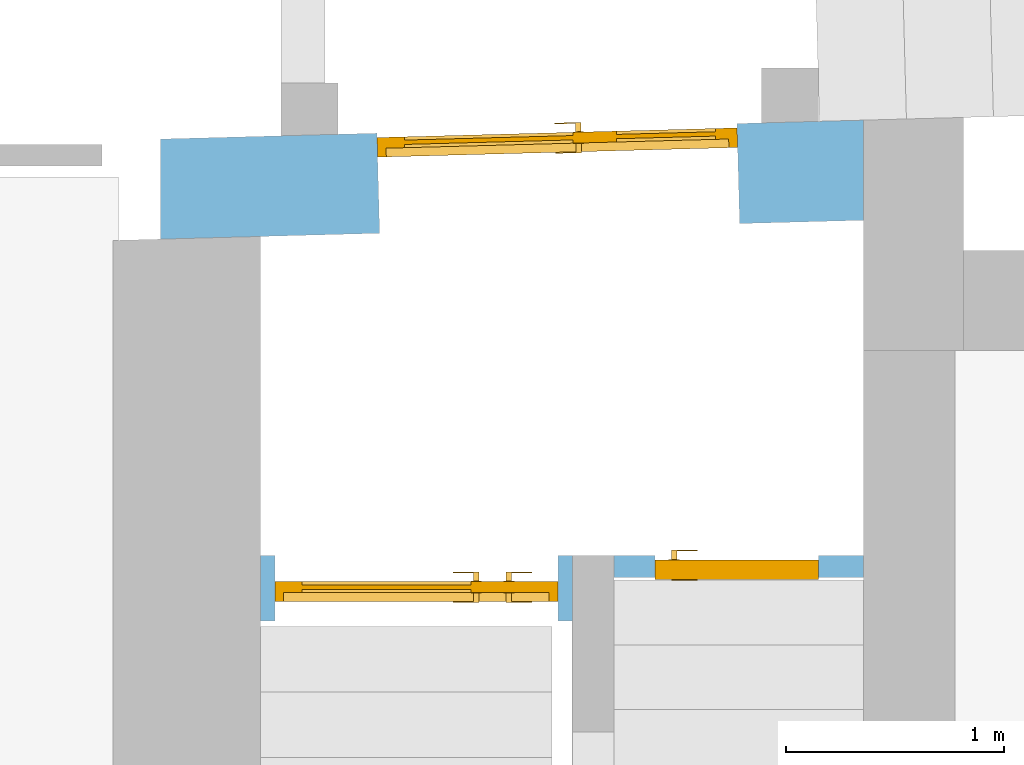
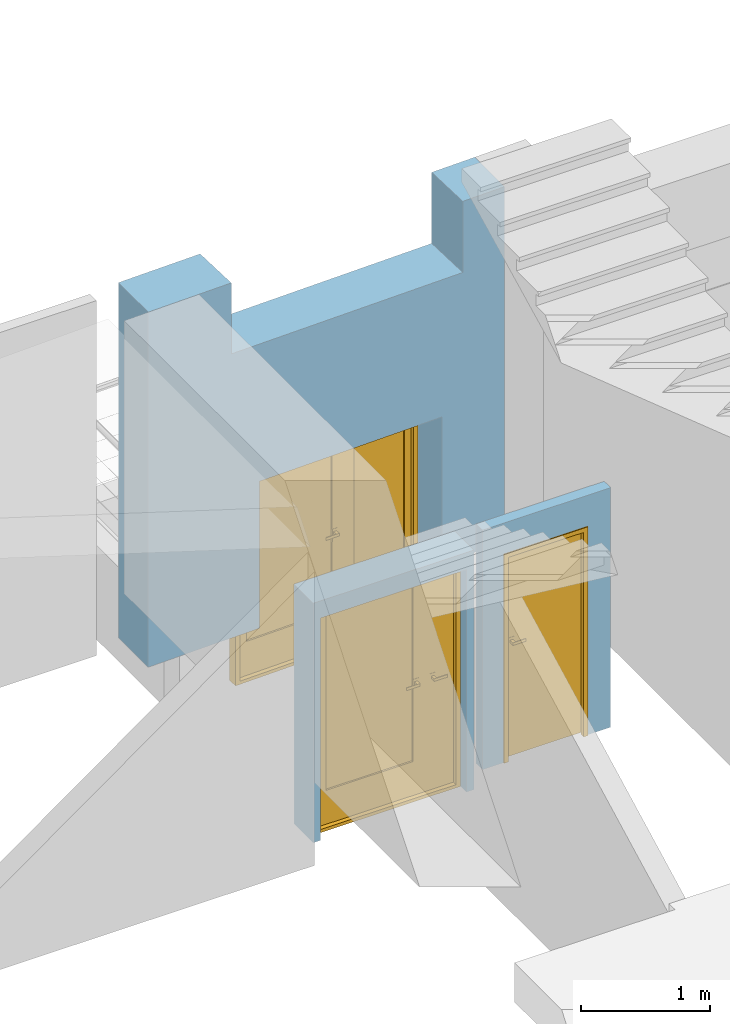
# One storey, part 34 of 49: 3 doors, 5 openings, plus 3 elements that do not belong to this part.
"""IFC2X3 building model written with IfcOpenShell, lengths in millimetres."""

from ifc_helpers import new_model, entity, si_unit, converted_unit, derived_unit, direction, frame, frame_2d, origin, place, context, subcontext, project, spatial, polyline, rectangle, outline, extrude, faceted_brep, source, transform, mapped, material, material_list, layer, layer_set, layer_usage, type_object, type_shapes, element, fill, save


model = new_model("IFC2X3")

# Units and contexts
model_context = context("Model", 3, precision=0.01, world=origin(), true_north=direction((6.12303176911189e-17, 1.0)))
body_context = subcontext(model_context, "Body", "Model", "MODEL_VIEW")
ifc_project = project(units=[si_unit("LENGTHUNIT", "METRE", prefix="MILLI"), si_unit("AREAUNIT", "SQUARE_METRE"), si_unit("VOLUMEUNIT", "CUBIC_METRE"), converted_unit("PLANEANGLEUNIT", "DEGREE", entity("IfcRatioMeasure", 0.0174532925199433), si_unit("PLANEANGLEUNIT", "RADIAN"), dimensions=[0, 0, 0, 0, 0, 0, 0]), si_unit("MASSUNIT", "GRAM", prefix="KILO"), derived_unit("MASSDENSITYUNIT", [(si_unit("MASSUNIT", "GRAM", prefix="KILO"), 1), (si_unit("LENGTHUNIT", "METRE"), -3)]), si_unit("TIMEUNIT", "SECOND"), si_unit("FREQUENCYUNIT", "HERTZ"), si_unit("THERMODYNAMICTEMPERATUREUNIT", "DEGREE_CELSIUS"), derived_unit("THERMALTRANSMITTANCEUNIT", [(si_unit("MASSUNIT", "GRAM", prefix="KILO"), 1), (si_unit("THERMODYNAMICTEMPERATUREUNIT", "KELVIN"), -1), (si_unit("TIMEUNIT", "SECOND"), -3)]), derived_unit("VOLUMETRICFLOWRATEUNIT", [(si_unit("LENGTHUNIT", "METRE"), 3), (si_unit("TIMEUNIT", "SECOND"), -1)]), si_unit("ELECTRICCURRENTUNIT", "AMPERE"), si_unit("ELECTRICVOLTAGEUNIT", "VOLT"), si_unit("POWERUNIT", "WATT"), si_unit("FORCEUNIT", "NEWTON", prefix="KILO"), si_unit("ILLUMINANCEUNIT", "LUX"), si_unit("LUMINOUSFLUXUNIT", "LUMEN"), si_unit("LUMINOUSINTENSITYUNIT", "CANDELA"), derived_unit("USERDEFINED", [(si_unit("MASSUNIT", "GRAM", prefix="KILO"), -1), (si_unit("LENGTHUNIT", "METRE"), -2), (si_unit("TIMEUNIT", "SECOND"), 3), (si_unit("LUMINOUSFLUXUNIT", "LUMEN"), 1)]), derived_unit("LINEARVELOCITYUNIT", [(si_unit("LENGTHUNIT", "METRE"), 1), (si_unit("TIMEUNIT", "SECOND"), -1)]), si_unit("PRESSUREUNIT", "PASCAL"), derived_unit("USERDEFINED", [(si_unit("LENGTHUNIT", "METRE"), -2), (si_unit("MASSUNIT", "GRAM", prefix="KILO"), 1), (si_unit("TIMEUNIT", "SECOND"), -2)])], contexts=[model_context])

# Site, building, storey
site_placement = place(None, frame((-151.875543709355, 2715.0, 0.0)))
site = spatial("IfcSite", under=ifc_project, at=site_placement, Name="Surface", CompositionType="ELEMENT")
building_placement = place(site_placement, origin())
building = spatial("IfcBuilding", under=site, at=building_placement, CompositionType="ELEMENT")
storey_placement = place(building_placement, origin())
storey = spatial("IfcBuildingStorey", under=building, at=storey_placement, Name="1 korrus", CompositionType="ELEMENT", Elevation=3.0969999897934e-10)

# Wall, opening, door
ifc_material_1 = material(Name="Tellis")
ifc_layer_1 = layer(ifc_material_1, 90.0)
ifc_material_2 = material(Name="__Hall krohv")
ifc_layer_2 = layer(ifc_material_2, 10.0)
ifc_layer_set_1 = layer_set([ifc_layer_1, ifc_layer_2], Name="Basic Wall:SS-01_ol.olev tellissein100")
ifc_layer_usage_1 = layer_usage(ifc_layer_set_1, "AXIS2", "NEGATIVE", 50.0)
wall_type_1 = type_object("IfcWallType", Name="Basic Wall:SS-01_ol.olev tellissein100", PredefinedType="STANDARD", material=ifc_layer_set_1)
wall_1_placement = place(storey_placement, frame((3393.79644394, 11158.382795, -754.164218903)))
wall_1 = element("IfcWallStandardCase", 1, at=wall_1_placement, inside=storey, type_object=wall_type_1, material=ifc_layer_usage_1, Name="SEIN - 003", ObjectType="Basic Wall:SS-01_ol.olev tellissein100", context=body_context, shape_type="SweptSolid", body=[
    extrude(rectangle(XDim=1146.27795490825, YDim=100.000000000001, at=frame_2d((573.138977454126, -1.08357767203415e-12), x_axis=(1.0, 0.0))), origin(), (0.0, 0.0, 1.0), 2259.58929114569),
])
opening_1_placement = place(wall_1_placement, frame((188.657590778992, -50.0, 0.0)))
opening_1 = element("IfcOpeningElement", 2, at=opening_1_placement, cuts=wall_1, Name="Ühepoolsed:SU-15:1", ObjectType="Opening", context=body_context, shape_type="SweptSolid", body=[
    extrude(rectangle(XDim=1969.99999999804, YDim=750.0, at=frame_2d((984.999999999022, 375.0), x_axis=(1.0, 0.0))), frame((0.0, 0.0, 0.0), z_axis=(0.0, 1.0, 0.0), x_axis=(0.0, 0.0, 1.0)), (0.0, 0.0, 1.0), 100.0),
])
ifc_material_3 = material(Name="_Alumiiniumprofiil - must")
ifc_material_4 = material(Name="Steel/Aluminium")
ifc_material_list_1 = material_list([ifc_material_3, ifc_material_4])
ifc_material_list_2 = material_list([ifc_material_3, ifc_material_4])
door_style_1 = type_object("IfcDoorStyle", Name="SU-15", ConstructionType="NOTDEFINED", OperationType="FOLDING_TO_LEFT", ParameterTakesPrecedence=False, Sizeable=False, material=ifc_material_list_2)
shared_shape_1 = source(origin(), body_context, "Body", "Brep", [
    faceted_brep([(100.0, -10.0, 1112.5), (100.0, 28.0, 1112.5), (75.0, 28.0, 1112.5), (75.0, -15.0, 1112.5), (195.0, -15.0, 1112.5), (195.0, -10.0, 1112.5), (100.0, -10.0, 1087.5), (195.0, -10.0, 1087.5), (195.0, -15.0, 1087.5), (75.0, -15.0, 1087.5), (75.0, 28.0, 1087.5), (100.0, 28.0, 1087.5)], [[[0, 1, 2, 3, 4, 5]], [[6, 7, 8, 9, 10, 11]], [[1, 0, 6, 11]], [[2, 1, 11, 10]], [[3, 2, 10, 9]], [[4, 3, 9, 8]], [[5, 4, 8, 7]], [[0, 5, 7, 6]]]),
    faceted_brep([(112.5, 28.0, 1137.5), (112.5, 30.0, 1137.5), (62.5, 30.0, 1137.5), (62.5, 28.0, 1137.5), (112.5, 28.0, 1017.5), (62.5, 28.0, 1017.5), (62.5, 30.0, 1017.5), (112.5, 30.0, 1017.5)], [[[0, 1, 2, 3]], [[4, 5, 6, 7]], [[1, 0, 4, 7]], [[2, 1, 7, 6]], [[3, 2, 6, 5]], [[0, 3, 5, 4]]]),
    faceted_brep([(100.0, 120.0, 1112.5), (195.0, 120.0, 1112.5), (195.0, 125.0, 1112.5), (75.0, 125.0, 1112.5), (75.0, 82.0, 1112.5), (100.0, 82.0, 1112.5), (100.0, 120.0, 1087.5), (100.0, 82.0, 1087.5), (75.0, 82.0, 1087.5), (75.0, 125.0, 1087.5), (195.0, 125.0, 1087.5), (195.0, 120.0, 1087.5)], [[[0, 1, 2, 3, 4, 5]], [[6, 7, 8, 9, 10, 11]], [[5, 7, 6, 0]], [[4, 8, 7, 5]], [[3, 9, 8, 4]], [[2, 10, 9, 3]], [[1, 11, 10, 2]], [[0, 6, 11, 1]]]),
    faceted_brep([(112.5, 82.0, 1137.5), (62.5, 82.0, 1137.5), (62.5, 80.0, 1137.5), (112.5, 80.0, 1137.5), (112.5, 82.0, 1017.5), (112.5, 80.0, 1017.5), (62.5, 80.0, 1017.5), (62.5, 82.0, 1017.5)], [[[0, 1, 2, 3]], [[4, 5, 6, 7]], [[3, 5, 4, 0]], [[2, 6, 5, 3]], [[1, 7, 6, 2]], [[0, 4, 7, 1]]]),
    faceted_brep([(750.0, -10.0, 0.0), (710.0, -10.0, 0.0), (710.0, 30.0, 0.0), (725.0, 30.0, 0.0), (725.0, 80.0, 0.0), (750.0, 80.0, 0.0), (750.0, -10.0, 1970.0), (0.0, -10.0, 1970.0), (0.0, -10.0, 0.0), (40.0, -10.0, 0.0), (40.0, -10.0, 1930.0), (710.0, -10.0, 1930.0), (710.0, 30.0, 1930.0), (40.0, 30.0, 1930.0), (40.0, 30.0, 0.0), (25.0, 30.0, 0.0), (25.0, 30.0, 1945.0), (725.0, 30.0, 1945.0), (725.0, 80.0, 1945.0), (25.0, 80.0, 1945.0), (25.0, 80.0, 0.0), (0.0, 80.0, 0.0), (0.0, 80.0, 1970.0), (750.0, 80.0, 1970.0)], [[[0, 1, 2, 3, 4, 5]], [[1, 0, 6, 7, 8, 9, 10, 11]], [[2, 1, 11, 12]], [[3, 2, 12, 13, 14, 15, 16, 17]], [[4, 3, 17, 18]], [[5, 4, 18, 19, 20, 21, 22, 23]], [[0, 5, 23, 6]], [[8, 7, 22, 21]], [[9, 8, 21, 20, 15, 14]], [[10, 9, 14, 13]], [[16, 15, 20, 19]], [[11, 10, 13, 12]], [[17, 16, 19, 18]], [[7, 6, 23, 22]]]),
    faceted_brep([(25.0, 30.0, 1945.0), (25.0, 30.0, 20.0), (725.0, 30.0, 20.0), (725.0, 30.0, 1945.0), (25.0, 80.0, 1945.0), (725.0, 80.0, 1945.0), (725.0, 80.0, 20.0), (25.0, 80.0, 20.0)], [[[0, 1, 2, 3]], [[4, 5, 6, 7]], [[1, 0, 4, 7]], [[2, 1, 7, 6]], [[3, 2, 6, 5]], [[0, 3, 5, 4]]]),
])
type_shapes(door_style_1, [shared_shape_1])
door_1_placement = place(opening_1_placement, origin())
door_1 = element("IfcDoor", 3, at=door_1_placement, inside=storey, type_object=door_style_1, material=ifc_material_list_1, Name="Ühepoolsed:SU-15", ObjectType="SU-15", OverallHeight=1969.99999999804, OverallWidth=750.0, context=body_context, shape_type="MappedRepresentation", body=[
    mapped(shared_shape_1, transform((0.0, 0.0, 0.0), scale=1.0)),
])
fill(opening_1, door_1)

# Wall, openings, door
ifc_material_5 = material(Name="Brick, Common")
ifc_layer_3 = layer(ifc_material_5, 440.0)
ifc_material_6 = material(Name="__Kips GN13_tava")
ifc_layer_4 = layer(ifc_material_6, 20.0)
ifc_layer_set_2 = layer_set([ifc_layer_3, ifc_layer_4], Name="Basic Wall:VS-1")
ifc_layer_usage_2 = layer_usage(ifc_layer_set_2, "AXIS2", "NEGATIVE", 230.0)
wall_type_2 = type_object("IfcWallType", Name="Basic Wall:VS-1", PredefinedType="STANDARD", material=ifc_layer_set_2)
wall_2_placement = place(storey_placement, frame((1084.82025900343, 12886.4674488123, 0.0), z_axis=(0.0, 0.0, 1.0), x_axis=(0.999638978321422, 0.0268684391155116, 0.0)))
wall_2 = element("IfcWallStandardCase", 4, at=wall_2_placement, inside=storey, type_object=wall_type_2, material=ifc_layer_usage_2, Name="SEIN - 004", ObjectType="Basic Wall:VS-1", context=body_context, shape_type="SweptSolid", body=[
    extrude(outline(polyline([(219.079092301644, -230.0), (3450.32003918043, -230.0), (3462.68398482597, 230.0), (231.44303794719, 230.0), (219.079092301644, -230.0)])), origin(), (0.0, 0.0, 1.0), 3350.0),
])
opening_2_placement = place(wall_2_placement, origin())
element("IfcOpeningElement", 5, at=opening_2_placement, cuts=wall_2, Name="SEIN - 004", ObjectType="Opening", context=body_context, shape_type="SweptSolid", body=[
    extrude(rectangle(XDim=1850.0, YDim=2100.0, at=frame_2d((2.27373675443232e-13, 0.0), x_axis=(1.0, 0.0))), frame((2022.05100957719, -490.0, 3604.53481674), z_axis=(0.0, 1.0, 0.0), x_axis=(0.0, 0.0, 1.0)), (0.0, 0.0, 1.0), 1180.0),
])
opening_3_placement = place(wall_2_placement, origin())
element("IfcOpeningElement", 6, at=opening_3_placement, cuts=wall_2, Name="SEIN - 004", ObjectType="Opening", context=body_context, shape_type="SweptSolid", body=[
    extrude(rectangle(XDim=1850.0, YDim=2100.0, at=frame_2d((2.8421709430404e-13, 1.13686837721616e-13), x_axis=(1.0, 0.0))), frame((2022.05100957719, -695.9, 3604.534816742), z_axis=(0.0, 1.0, 0.0), x_axis=(0.0, 0.0, -1.0)), (0.0, 0.0, 1.0), 1393.8),
])
opening_4_placement = place(wall_2_placement, frame((1226.25711883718, -230.0, -754.0)))
opening_4 = element("IfcOpeningElement", 7, at=opening_4_placement, cuts=wall_2, Name="Kahepoolsed:VU-02:1", ObjectType="Opening", context=body_context, shape_type="SweptSolid", body=[
    extrude(rectangle(XDim=2139.99999999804, YDim=1655.0, at=frame_2d((1069.99999999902, 827.5), x_axis=(1.0, 0.0))), frame((0.0, 0.0, 0.0), z_axis=(0.0, 1.0, 0.0), x_axis=(0.0, 0.0, 1.0)), (0.0, 0.0, 1.0), 460.0),
])
ifc_material_7 = material(Name="EP Tavallinen lasi")
ifc_material_list_3 = material_list([ifc_material_3, ifc_material_4, ifc_material_7])
ifc_material_list_4 = material_list([ifc_material_3, ifc_material_4, ifc_material_7])
door_style_2 = type_object("IfcDoorStyle", Name="VU-02", ConstructionType="NOTDEFINED", OperationType="FOLDING_TO_RIGHT", ParameterTakesPrecedence=False, Sizeable=False, material=ifc_material_list_4)
shared_shape_2 = source(origin(), body_context, "Body", "Brep", [
    faceted_brep([(912.499999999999, 350.0, 1100.0), (817.499999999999, 350.0, 1100.0), (817.499999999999, 345.0, 1100.0), (937.499999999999, 345.0, 1100.0), (937.499999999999, 388.0, 1100.0), (912.499999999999, 388.0, 1100.0), (912.499999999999, 350.0, 1075.0), (912.499999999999, 388.0, 1075.0), (937.499999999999, 388.0, 1075.0), (937.499999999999, 345.0, 1075.0), (817.499999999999, 345.0, 1075.0), (817.499999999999, 350.0, 1075.0)], [[[0, 1, 2, 3, 4, 5]], [[6, 7, 8, 9, 10, 11]], [[5, 7, 6, 0]], [[4, 8, 7, 5]], [[3, 9, 8, 4]], [[2, 10, 9, 3]], [[1, 11, 10, 2]], [[0, 6, 11, 1]]]),
    faceted_brep([(900.0, 388.0, 1125.0), (950.0, 388.0, 1125.0), (950.0, 390.0, 1125.0), (900.0, 390.0, 1125.0), (900.0, 388.0, 1005.0), (900.0, 390.0, 1005.0), (950.0, 390.0, 1005.0), (950.0, 388.0, 1005.0)], [[[0, 1, 2, 3]], [[4, 5, 6, 7]], [[3, 5, 4, 0]], [[2, 6, 5, 3]], [[1, 7, 6, 2]], [[0, 4, 7, 1]]]),
    faceted_brep([(912.499999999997, 480.0, 1100.0), (912.499999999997, 442.0, 1100.0), (937.499999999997, 442.0, 1100.0), (937.499999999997, 485.0, 1100.0), (817.499999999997, 485.0, 1100.0), (817.499999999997, 480.0, 1100.0), (912.499999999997, 480.0, 1075.0), (817.499999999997, 480.0, 1075.0), (817.499999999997, 485.0, 1075.0), (937.499999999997, 485.0, 1075.0), (937.499999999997, 442.0, 1075.0), (912.499999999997, 442.0, 1075.0)], [[[0, 1, 2, 3, 4, 5]], [[6, 7, 8, 9, 10, 11]], [[1, 0, 6, 11]], [[2, 1, 11, 10]], [[3, 2, 10, 9]], [[4, 3, 9, 8]], [[5, 4, 8, 7]], [[0, 5, 7, 6]]]),
    faceted_brep([(900.0, 442.0, 1125.0), (900.0, 440.0, 1125.0), (950.0, 440.0, 1125.0), (950.0, 442.0, 1125.0), (900.0, 442.0, 1005.0), (950.0, 442.0, 1005.0), (950.0, 440.0, 1005.0), (900.0, 440.0, 1005.0)], [[[0, 1, 2, 3]], [[4, 5, 6, 7]], [[1, 0, 4, 7]], [[2, 1, 7, 6]], [[3, 2, 6, 5]], [[0, 3, 5, 4]]]),
    faceted_brep([(1615.0, 350.0, 30.0), (1615.0, 350.0, 0.0), (1615.0, 390.0, 0.0), (1615.0, 390.0, 20.0), (1615.0, 390.0, 30.0), (40.0, 350.0, 30.0), (40.0, 390.0, 30.0), (40.0, 390.0, 20.0), (40.0, 390.0, 0.0), (40.0, 350.0, 0.0), (25.0, 390.0, 0.0), (25.0, 440.0, 0.0), (1630.0, 440.0, 0.0), (1630.0, 390.0, 0.0), (1630.0, 440.0, 20.0), (1630.0, 390.0, 20.0), (25.0, 440.0, 20.0), (25.0, 390.0, 20.0)], [[[0, 1, 2, 3, 4]], [[5, 6, 7, 8, 9]], [[1, 0, 5, 9]], [[2, 1, 9, 8, 10, 11, 12, 13]], [[6, 4, 3, 7]], [[0, 4, 6, 5]], [[14, 15, 13, 12]], [[16, 11, 10, 17]], [[15, 14, 16, 17, 7, 3]], [[13, 15, 3, 2]], [[14, 12, 11, 16]], [[17, 10, 8, 7]]]),
    faceted_brep([(1655.0, 350.0, 0.0), (1615.0, 350.0, 0.0), (1615.0, 390.0, 0.0), (1630.0, 390.0, 0.0), (1630.0, 440.0, 0.0), (1655.0, 440.0, 0.0), (1655.0, 350.0, 2140.0), (0.0, 350.0, 2140.0), (0.0, 350.0, 0.0), (40.0, 350.0, 0.0), (40.0, 350.0, 2100.0), (1615.0, 350.0, 2100.0), (1615.0, 390.0, 2100.0), (40.0, 390.0, 2100.0), (40.0, 390.0, 0.0), (25.0, 390.0, 0.0), (25.0, 390.0, 2115.0), (1630.0, 390.0, 2115.0), (1630.0, 440.0, 2115.0), (25.0, 440.0, 2115.0), (25.0, 440.0, 0.0), (0.0, 440.0, 0.0), (0.0, 440.0, 2140.0), (1655.0, 440.0, 2140.0)], [[[0, 1, 2, 3, 4, 5]], [[1, 0, 6, 7, 8, 9, 10, 11]], [[2, 1, 11, 12]], [[3, 2, 12, 13, 14, 15, 16, 17]], [[4, 3, 17, 18]], [[5, 4, 18, 19, 20, 21, 22, 23]], [[0, 5, 23, 6]], [[8, 7, 22, 21]], [[9, 8, 21, 20, 15, 14]], [[10, 9, 14, 13]], [[16, 15, 20, 19]], [[7, 6, 23, 22]], [[11, 10, 13, 12]], [[17, 16, 19, 18]]]),
    faceted_brep([(125.0, 405.0, 350.0), (900.0, 405.0, 350.0), (900.0, 405.0, 2040.0), (125.0, 405.0, 2040.0), (125.0, 425.0, 350.0), (125.0, 425.0, 2040.0), (900.0, 425.0, 2040.0), (900.0, 425.0, 350.0)], [[[0, 1, 2, 3]], [[4, 5, 6, 7]], [[1, 0, 4, 7]], [[2, 1, 7, 6]], [[3, 2, 6, 5]], [[0, 3, 5, 4]]]),
    faceted_brep([(1100.0, 405.0, 350.0), (1555.0, 405.0, 350.0), (1555.0, 405.0, 2040.0), (1100.0, 405.0, 2040.0), (1100.0, 425.0, 350.0), (1100.0, 425.0, 2040.0), (1555.0, 425.0, 2040.0), (1555.0, 425.0, 350.0)], [[[0, 1, 2, 3]], [[4, 5, 6, 7]], [[1, 0, 4, 7]], [[2, 1, 7, 6]], [[3, 2, 6, 5]], [[0, 3, 5, 4]]]),
    faceted_brep([(1000.0, 390.0, 2115.0), (25.0, 390.0, 2115.0), (25.0, 390.0, 20.0), (1000.0, 390.0, 20.0), (125.0, 390.0, 350.0), (125.0, 390.0, 2040.0), (900.0, 390.0, 2040.0), (900.0, 390.0, 350.0), (1000.0, 440.0, 2115.0), (1000.0, 440.0, 20.0), (25.0, 440.0, 20.0), (25.0, 440.0, 2115.0), (125.0, 440.0, 2040.0), (125.0, 440.0, 350.0), (900.0, 440.0, 350.0), (900.0, 440.0, 2040.0)], [[[0, 1, 2, 3], [4, 5, 6, 7]], [[8, 9, 10, 11], [12, 13, 14, 15]], [[1, 0, 8, 11]], [[2, 1, 11, 10]], [[3, 2, 10, 9]], [[0, 3, 9, 8]], [[12, 5, 4, 13]], [[13, 4, 7, 14]], [[14, 7, 6, 15]], [[5, 12, 15, 6]]]),
    faceted_brep([(1000.0, 390.0, 2115.0), (1000.0, 390.0, 20.0), (1630.0, 390.0, 20.0), (1630.0, 390.0, 2115.0), (1100.0, 390.0, 350.0), (1100.0, 390.0, 2040.0), (1555.0, 390.0, 2040.0), (1555.0, 390.0, 350.0), (1000.0, 440.0, 2115.0), (1630.0, 440.0, 2115.0), (1630.0, 440.0, 20.0), (1000.0, 440.0, 20.0), (1100.0, 440.0, 2040.0), (1100.0, 440.0, 350.0), (1555.0, 440.0, 350.0), (1555.0, 440.0, 2040.0)], [[[0, 1, 2, 3], [4, 5, 6, 7]], [[8, 9, 10, 11], [12, 13, 14, 15]], [[1, 0, 8, 11]], [[2, 1, 11, 10]], [[3, 2, 10, 9]], [[0, 3, 9, 8]], [[12, 5, 4, 13]], [[13, 4, 7, 14]], [[14, 7, 6, 15]], [[5, 12, 15, 6]]]),
])
type_shapes(door_style_2, [shared_shape_2])
door_2_placement = place(opening_4_placement, origin())
door_2 = element("IfcDoor", 8, at=door_2_placement, inside=storey, type_object=door_style_2, material=ifc_material_list_3, Name="Kahepoolsed:VU-02", ObjectType="VU-02", OverallHeight=2139.99999999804, OverallWidth=1655.0, context=body_context, shape_type="MappedRepresentation", body=[
    mapped(shared_shape_2, transform((0.0, 0.0, 0.0), scale=1.0)),
])
fill(opening_4, door_2)

# Wall, opening, door
ifc_layer_5 = layer(ifc_material_2, 10.0)
ifc_layer_6 = layer(ifc_material_1, 280.0)
ifc_layer_7 = layer(ifc_material_2, 10.0)
ifc_layer_set_3 = layer_set([ifc_layer_5, ifc_layer_6, ifc_layer_7], Name="Basic Wall:SS-01_ol.olev tellissein300")
ifc_layer_usage_3 = layer_usage(ifc_layer_set_3, "AXIS2", "NEGATIVE", 150.0)
wall_type_3 = type_object("IfcWallType", Name="Basic Wall:SS-01_ol.olev tellissein300", PredefinedType="STANDARD", material=ifc_layer_set_3)
wall_3_placement = place(storey_placement, frame((1770.0, 11058.382795, -754.164218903)))
wall_3 = element("IfcWallStandardCase", 9, at=wall_3_placement, inside=storey, type_object=wall_type_3, material=ifc_layer_usage_3, Name="SEIN - 003", ObjectType="Basic Wall:SS-01_ol.olev tellissein300", context=body_context, shape_type="SweptSolid", body=[
    extrude(rectangle(XDim=1433.79644394, YDim=300.000000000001, at=frame_2d((716.89822197, 0.0), x_axis=(-1.0, 0.0))), origin(), (0.0, 0.0, 1.0), 2259.58929114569),
])
opening_5_placement = place(wall_3_placement, frame((65.597899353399, -150.0, 1.30986315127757e-09)))
opening_5 = element("IfcOpeningElement", 10, at=opening_5_placement, cuts=wall_3, Name="Kahepoolsed:SU-12:1", ObjectType="Opening", context=body_context, shape_type="SweptSolid", body=[
    extrude(rectangle(XDim=2099.99999999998, YDim=1300.0, at=frame_2d((1049.99999999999, 650.0), x_axis=(1.0, 0.0))), frame((0.0, 0.0, 0.0), z_axis=(0.0, 1.0, 0.0), x_axis=(0.0, 0.0, 1.0)), (0.0, 0.0, 1.0), 300.0),
])
ifc_material_8 = material(Name="__Uks_hele tamm")
ifc_material_list_5 = material_list([ifc_material_3, ifc_material_8, ifc_material_7])
ifc_material_list_6 = material_list([ifc_material_3, ifc_material_8, ifc_material_7])
door_style_3 = type_object("IfcDoorStyle", Name="SU-12", ConstructionType="NOTDEFINED", OperationType="FOLDING_TO_RIGHT", ParameterTakesPrecedence=False, Sizeable=False, material=ifc_material_list_6)
shared_shape_3 = source(origin(), body_context, "Body", "Brep", [
    faceted_brep([(912.5, 90.0, 1100.0), (817.5, 90.0, 1100.0), (817.5, 85.0, 1100.0), (937.5, 85.0, 1100.0), (937.5, 128.0, 1100.0), (912.5, 128.0, 1100.0), (912.5, 90.0, 1075.0), (912.5, 128.0, 1075.0), (937.5, 128.0, 1075.0), (937.5, 85.0, 1075.0), (817.5, 85.0, 1075.0), (817.5, 90.0, 1075.0)], [[[0, 1, 2, 3, 4, 5]], [[6, 7, 8, 9, 10, 11]], [[5, 7, 6, 0]], [[4, 8, 7, 5]], [[3, 9, 8, 4]], [[2, 10, 9, 3]], [[1, 11, 10, 2]], [[0, 6, 11, 1]]]),
    faceted_brep([(900.0, 128.0, 1125.0), (950.0, 128.0, 1125.0), (950.0, 130.0, 1125.0), (900.0, 130.0, 1125.0), (900.0, 128.0, 1005.0), (900.0, 130.0, 1005.0), (950.0, 130.0, 1005.0), (950.0, 128.0, 1005.0)], [[[0, 1, 2, 3]], [[4, 5, 6, 7]], [[3, 5, 4, 0]], [[2, 6, 5, 3]], [[1, 7, 6, 2]], [[0, 4, 7, 1]]]),
    faceted_brep([(912.499999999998, 220.0, 1100.0), (912.499999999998, 182.0, 1100.0), (937.499999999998, 182.0, 1100.0), (937.499999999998, 225.0, 1100.0), (817.499999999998, 225.0, 1100.0), (817.499999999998, 220.0, 1100.0), (912.499999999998, 220.0, 1075.0), (817.499999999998, 220.0, 1075.0), (817.499999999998, 225.0, 1075.0), (937.499999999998, 225.0, 1075.0), (937.499999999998, 182.0, 1075.0), (912.499999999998, 182.0, 1075.0)], [[[0, 1, 2, 3, 4, 5]], [[6, 7, 8, 9, 10, 11]], [[1, 0, 6, 11]], [[2, 1, 11, 10]], [[3, 2, 10, 9]], [[4, 3, 9, 8]], [[5, 4, 8, 7]], [[0, 5, 7, 6]]]),
    faceted_brep([(900.0, 182.0, 1125.0), (900.0, 180.0, 1125.0), (950.0, 180.0, 1125.0), (950.0, 182.0, 1125.0), (900.0, 182.0, 1005.0), (950.0, 182.0, 1005.0), (950.0, 180.0, 1005.0), (900.0, 180.0, 1005.0)], [[[0, 1, 2, 3]], [[4, 5, 6, 7]], [[1, 0, 4, 7]], [[2, 1, 7, 6]], [[3, 2, 6, 5]], [[0, 3, 5, 4]]]),
    faceted_brep([(1087.5, 90.0, 1100.0), (1087.5, 128.0, 1100.0), (1062.5, 128.0, 1100.0), (1062.5, 85.0, 1100.0), (1182.5, 85.0, 1100.0), (1182.5, 90.0, 1100.0), (1087.5, 90.0, 1075.0), (1182.5, 90.0, 1075.0), (1182.5, 85.0, 1075.0), (1062.5, 85.0, 1075.0), (1062.5, 128.0, 1075.0), (1087.5, 128.0, 1075.0)], [[[0, 1, 2, 3, 4, 5]], [[6, 7, 8, 9, 10, 11]], [[1, 0, 6, 11]], [[2, 1, 11, 10]], [[3, 2, 10, 9]], [[4, 3, 9, 8]], [[5, 4, 8, 7]], [[0, 5, 7, 6]]]),
    faceted_brep([(1100.0, 128.0, 1125.0), (1100.0, 130.0, 1125.0), (1050.0, 130.0, 1125.0), (1050.0, 128.0, 1125.0), (1100.0, 128.0, 1005.0), (1050.0, 128.0, 1005.0), (1050.0, 130.0, 1005.0), (1100.0, 130.0, 1005.0)], [[[0, 1, 2, 3]], [[4, 5, 6, 7]], [[1, 0, 4, 7]], [[2, 1, 7, 6]], [[3, 2, 6, 5]], [[0, 3, 5, 4]]]),
    faceted_brep([(1087.5, 220.0, 1100.0), (1182.5, 220.0, 1100.0), (1182.5, 225.0, 1100.0), (1062.5, 225.0, 1100.0), (1062.5, 182.0, 1100.0), (1087.5, 182.0, 1100.0), (1087.5, 220.0, 1075.0), (1087.5, 182.0, 1075.0), (1062.5, 182.0, 1075.0), (1062.5, 225.0, 1075.0), (1182.5, 225.0, 1075.0), (1182.5, 220.0, 1075.0)], [[[0, 1, 2, 3, 4, 5]], [[6, 7, 8, 9, 10, 11]], [[5, 7, 6, 0]], [[4, 8, 7, 5]], [[3, 9, 8, 4]], [[2, 10, 9, 3]], [[1, 11, 10, 2]], [[0, 6, 11, 1]]]),
    faceted_brep([(1100.0, 182.0, 1125.0), (1050.0, 182.0, 1125.0), (1050.0, 180.0, 1125.0), (1100.0, 180.0, 1125.0), (1100.0, 182.0, 1005.0), (1100.0, 180.0, 1005.0), (1050.0, 180.0, 1005.0), (1050.0, 182.0, 1005.0)], [[[0, 1, 2, 3]], [[4, 5, 6, 7]], [[3, 5, 4, 0]], [[2, 6, 5, 3]], [[1, 7, 6, 2]], [[0, 4, 7, 1]]]),
    faceted_brep([(1260.0, 90.0, 30.0), (1260.0, 90.0, 0.0), (1260.0, 130.0, 0.0), (1260.0, 130.0, 20.0), (1260.0, 130.0, 30.0), (40.0, 90.0, 30.0), (40.0, 130.0, 30.0), (40.0, 130.0, 20.0), (40.0, 130.0, 0.0), (40.0, 90.0, 0.0), (25.0, 130.0, 0.0), (25.0, 180.0, 0.0), (1275.0, 180.0, 0.0), (1275.0, 130.0, 0.0), (1275.0, 180.0, 20.0), (1275.0, 130.0, 20.0), (25.0, 180.0, 20.0), (25.0, 130.0, 20.0)], [[[0, 1, 2, 3, 4]], [[5, 6, 7, 8, 9]], [[1, 0, 5, 9]], [[2, 1, 9, 8, 10, 11, 12, 13]], [[6, 4, 3, 7]], [[0, 4, 6, 5]], [[14, 15, 13, 12]], [[16, 11, 10, 17]], [[15, 14, 16, 17, 7, 3]], [[13, 15, 3, 2]], [[14, 12, 11, 16]], [[17, 10, 8, 7]]]),
    faceted_brep([(1300.0, 90.0, 0.0), (1260.0, 90.0, 0.0), (1260.0, 130.0, 0.0), (1275.0, 130.0, 0.0), (1275.0, 180.0, 0.0), (1300.0, 180.0, 0.0), (1300.0, 90.0, 2100.0), (0.0, 90.0, 2100.0), (0.0, 90.0, 0.0), (40.0, 90.0, 0.0), (40.0, 90.0, 2060.0), (1260.0, 90.0, 2060.0), (1260.0, 130.0, 2060.0), (40.0, 130.0, 2060.0), (40.0, 130.0, 0.0), (25.0, 130.0, 0.0), (25.0, 130.0, 2075.0), (1275.0, 130.0, 2075.0), (1275.0, 180.0, 2075.0), (25.0, 180.0, 2075.0), (25.0, 180.0, 0.0), (0.0, 180.0, 0.0), (0.0, 180.0, 2100.0), (1300.0, 180.0, 2100.0)], [[[0, 1, 2, 3, 4, 5]], [[1, 0, 6, 7, 8, 9, 10, 11]], [[2, 1, 11, 12]], [[3, 2, 12, 13, 14, 15, 16, 17]], [[4, 3, 17, 18]], [[5, 4, 18, 19, 20, 21, 22, 23]], [[0, 5, 23, 6]], [[8, 7, 22, 21]], [[9, 8, 21, 20, 15, 14]], [[10, 9, 14, 13]], [[16, 15, 20, 19]], [[11, 10, 13, 12]], [[17, 16, 19, 18]], [[7, 6, 23, 22]]]),
    faceted_brep([(1149.0, 180.0, 2000.0), (1149.0, 130.0, 2000.0), (1149.0, 130.0, 1990.0), (1149.0, 180.0, 1990.0), (1150.0, 130.0, 1990.0), (1150.0, 180.0, 1990.0), (1150.0, 130.0, 2000.0), (1150.0, 180.0, 2000.0), (1275.0, 130.0, 2075.0), (1000.0, 130.0, 2075.0), (1000.0, 130.0, 20.0), (1275.0, 130.0, 20.0), (1275.0, 180.0, 2075.0), (1275.0, 180.0, 20.0), (1000.0, 180.0, 20.0), (1000.0, 180.0, 2075.0)], [[[0, 1, 2, 3]], [[3, 2, 4, 5]], [[5, 4, 6, 7]], [[1, 0, 7, 6]], [[2, 1, 6, 4], [8, 9, 10, 11]], [[0, 3, 5, 7], [12, 13, 14, 15]], [[9, 8, 12, 15]], [[10, 9, 15, 14]], [[11, 10, 14, 13]], [[8, 11, 13, 12]]], outer=[[True], [True], [True], [True], [False, True], [False, True], [True], [True], [True], [True]]),
    faceted_brep([(125.0, 145.0, 350.0), (900.0, 145.0, 350.0), (900.0, 145.0, 2000.0), (125.0, 145.0, 2000.0), (125.0, 165.0, 350.0), (125.0, 165.0, 2000.0), (900.0, 165.0, 2000.0), (900.0, 165.0, 350.0)], [[[0, 1, 2, 3]], [[4, 5, 6, 7]], [[1, 0, 4, 7]], [[2, 1, 7, 6]], [[3, 2, 6, 5]], [[0, 3, 5, 4]]]),
    faceted_brep([(1000.0, 130.0, 2075.0), (25.0, 130.0, 2075.0), (25.0, 130.0, 20.0), (1000.0, 130.0, 20.0), (125.0, 130.0, 350.0), (125.0, 130.0, 2000.0), (900.0, 130.0, 2000.0), (900.0, 130.0, 350.0), (1000.0, 180.0, 2075.0), (1000.0, 180.0, 20.0), (25.0, 180.0, 20.0), (25.0, 180.0, 2075.0), (125.0, 180.0, 2000.0), (125.0, 180.0, 350.0), (900.0, 180.0, 350.0), (900.0, 180.0, 2000.0)], [[[0, 1, 2, 3], [4, 5, 6, 7]], [[8, 9, 10, 11], [12, 13, 14, 15]], [[1, 0, 8, 11]], [[2, 1, 11, 10]], [[3, 2, 10, 9]], [[0, 3, 9, 8]], [[12, 5, 4, 13]], [[13, 4, 7, 14]], [[14, 7, 6, 15]], [[5, 12, 15, 6]]]),
])
type_shapes(door_style_3, [shared_shape_3])
door_3_placement = place(opening_5_placement, origin())
door_3 = element("IfcDoor", 11, at=door_3_placement, inside=storey, type_object=door_style_3, material=ifc_material_list_5, Name="Kahepoolsed:SU-12", ObjectType="SU-12", OverallHeight=2099.99999999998, OverallWidth=1300.0, context=body_context, shape_type="MappedRepresentation", body=[
    mapped(shared_shape_3, transform((0.0, 0.0, 0.0), scale=1.0)),
])
fill(opening_5, door_3)

save(model, "model.ifc")
